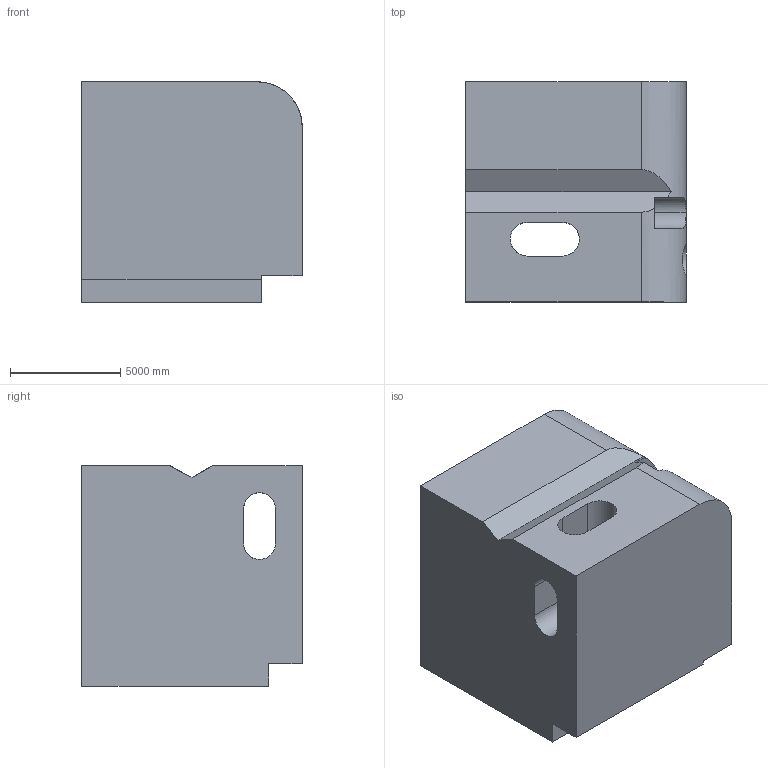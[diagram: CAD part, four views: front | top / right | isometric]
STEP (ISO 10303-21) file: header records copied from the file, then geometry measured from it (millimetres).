
FILE_DESCRIPTION (( 'STEP AP203' ), '1' );
FILE_NAME ('867.STEP', '2022-07-29T13:50:39', ( 'user' ), ( '' ), 'SwSTEP 2.0', 'SolidWorks 2021', '' );
FILE_SCHEMA (( 'CONFIG_CONTROL_DESIGN' ));
Length unit declared in the file: centimetre
Products named in the file (1): 867
Bounding box: 10000 x 10000 x 10000 mm (x, y, z)
Volume: 869127745954 mm3; surface area: 712075876.6 mm2
Topology: 1 solids, 1 shells, 37 faces, 111 edges, 74 vertices
Faces by surface type: plane 27, cylinder 10
Entity records: 1882 total; most frequent: CARTESIAN_POINT 796, ORIENTED_EDGE 222, DIRECTION 196, EDGE_CURVE 111, LINE 80, VECTOR 80, VERTEX_POINT 74, AXIS2_PLACEMENT_3D 58
